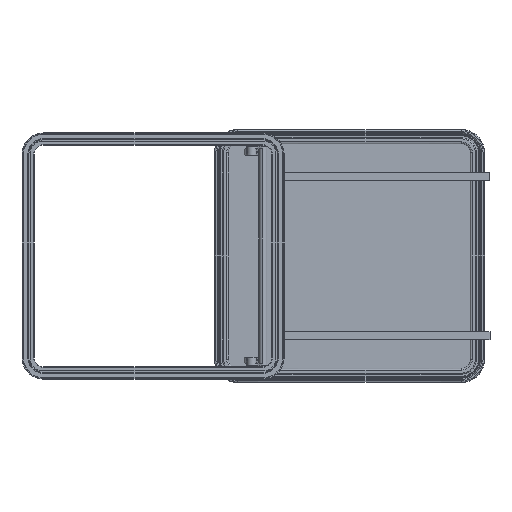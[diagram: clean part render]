
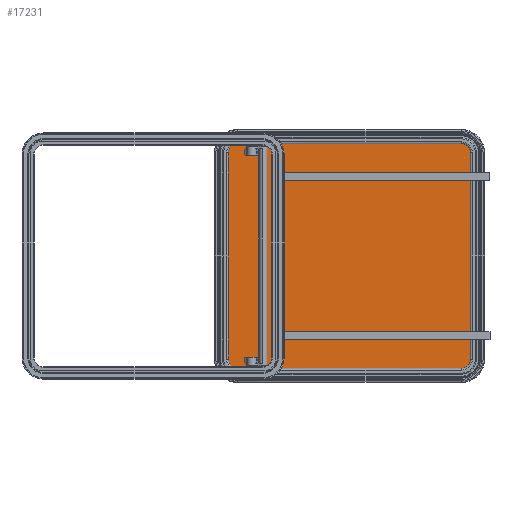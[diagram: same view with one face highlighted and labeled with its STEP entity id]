
A CAD part, front view. The second image highlights one B-rep face of the part: STEP entity #17231.
In plain terms, the highlighted planar face has unit normal (0, -1, 0).
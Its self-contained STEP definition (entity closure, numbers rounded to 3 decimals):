
#14776=DIRECTION('',(0.,0.,1.));
#14777=VECTOR('',#14776,698.);
#14778=CARTESIAN_POINT('',(-376.,0.,-349.));
#14779=LINE('',#14778,#14777);
#14780=CARTESIAN_POINT('',(-322.,0.,349.));
#14781=DIRECTION('',(0.,1.,0.));
#14782=DIRECTION('',(-1.,0.,0.));
#14783=AXIS2_PLACEMENT_3D('',#14780,#14781,#14782);
#14785=DIRECTION('',(1.,0.,0.));
#14786=VECTOR('',#14785,644.);
#14787=CARTESIAN_POINT('',(-322.,0.,403.));
#14788=LINE('',#14787,#14786);
#14789=CARTESIAN_POINT('',(322.,0.,349.));
#14790=DIRECTION('',(0.,1.,0.));
#14791=DIRECTION('',(0.,0.,1.));
#14792=AXIS2_PLACEMENT_3D('',#14789,#14790,#14791);
#14794=DIRECTION('',(0.,0.,-1.));
#14795=VECTOR('',#14794,698.);
#14796=CARTESIAN_POINT('',(376.,0.,349.));
#14797=LINE('',#14796,#14795);
#14798=CARTESIAN_POINT('',(322.,0.,-349.));
#14799=DIRECTION('',(0.,1.,0.));
#14800=DIRECTION('',(1.,0.,0.));
#14801=AXIS2_PLACEMENT_3D('',#14798,#14799,#14800);
#14803=DIRECTION('',(-1.,0.,0.));
#14804=VECTOR('',#14803,644.);
#14805=CARTESIAN_POINT('',(322.,0.,-403.));
#14806=LINE('',#14805,#14804);
#14807=CARTESIAN_POINT('',(-322.,0.,-349.));
#14808=DIRECTION('',(0.,1.,0.));
#14809=DIRECTION('',(0.,0.,-1.));
#14810=AXIS2_PLACEMENT_3D('',#14807,#14808,#14809);
#14812=CARTESIAN_POINT('',(-325.,0.,291.));
#14813=DIRECTION('',(0.,1.,0.));
#14814=DIRECTION('',(1.,0.,0.));
#14815=AXIS2_PLACEMENT_3D('',#14812,#14813,#14814);
#14817=DIRECTION('',(0.,0.,-1.));
#14818=VECTOR('',#14817,29.);
#14819=CARTESIAN_POINT('',(-319.5,0.,320.));
#14820=LINE('',#14819,#14818);
#14821=CARTESIAN_POINT('',(-325.,0.,320.));
#14822=DIRECTION('',(0.,1.,0.));
#14823=DIRECTION('',(-1.,0.,0.));
#14824=AXIS2_PLACEMENT_3D('',#14821,#14822,#14823);
#14826=DIRECTION('',(0.,0.,1.));
#14827=VECTOR('',#14826,29.);
#14828=CARTESIAN_POINT('',(-330.5,0.,291.));
#14829=LINE('',#14828,#14827);
#14830=CARTESIAN_POINT('',(325.,0.,291.));
#14831=DIRECTION('',(0.,-1.,0.));
#14832=DIRECTION('',(-1.,0.,0.));
#14833=AXIS2_PLACEMENT_3D('',#14830,#14831,#14832);
#14835=DIRECTION('',(0.,0.,1.));
#14836=VECTOR('',#14835,29.);
#14837=CARTESIAN_POINT('',(330.5,0.,291.));
#14838=LINE('',#14837,#14836);
#14839=CARTESIAN_POINT('',(325.,0.,320.));
#14840=DIRECTION('',(0.,-1.,0.));
#14841=DIRECTION('',(1.,0.,0.));
#14842=AXIS2_PLACEMENT_3D('',#14839,#14840,#14841);
#14844=DIRECTION('',(0.,0.,-1.));
#14845=VECTOR('',#14844,29.);
#14846=CARTESIAN_POINT('',(319.5,0.,320.));
#14847=LINE('',#14846,#14845);
#16604=CARTESIAN_POINT('',(-376.,0.,-349.));
#16605=CARTESIAN_POINT('',(-376.,0.,349.));
#16606=VERTEX_POINT('',#16604);
#16607=VERTEX_POINT('',#16605);
#16608=CARTESIAN_POINT('',(-322.,0.,403.));
#16609=VERTEX_POINT('',#16608);
#16610=CARTESIAN_POINT('',(322.,0.,403.));
#16611=VERTEX_POINT('',#16610);
#16612=CARTESIAN_POINT('',(376.,0.,349.));
#16613=VERTEX_POINT('',#16612);
#16614=CARTESIAN_POINT('',(376.,0.,-349.));
#16615=VERTEX_POINT('',#16614);
#16616=CARTESIAN_POINT('',(322.,0.,-403.));
#16617=VERTEX_POINT('',#16616);
#16618=CARTESIAN_POINT('',(-322.,0.,-403.));
#16619=VERTEX_POINT('',#16618);
#16668=CARTESIAN_POINT('',(-319.5,0.,291.));
#16669=CARTESIAN_POINT('',(-330.5,0.,291.));
#16670=VERTEX_POINT('',#16668);
#16671=VERTEX_POINT('',#16669);
#16672=CARTESIAN_POINT('',(-330.5,0.,320.));
#16673=VERTEX_POINT('',#16672);
#16674=CARTESIAN_POINT('',(-319.5,0.,320.));
#16675=VERTEX_POINT('',#16674);
#16684=CARTESIAN_POINT('',(319.5,0.,291.));
#16685=CARTESIAN_POINT('',(330.5,0.,291.));
#16686=VERTEX_POINT('',#16684);
#16687=VERTEX_POINT('',#16685);
#16688=CARTESIAN_POINT('',(330.5,0.,320.));
#16689=VERTEX_POINT('',#16688);
#16690=CARTESIAN_POINT('',(319.5,0.,320.));
#16691=VERTEX_POINT('',#16690);
#17188=CARTESIAN_POINT('',(0.,0.,0.));
#17189=DIRECTION('',(0.,1.,0.));
#17190=DIRECTION('',(1.,0.,0.));
#17191=AXIS2_PLACEMENT_3D('',#17188,#17189,#17190);
#17192=PLANE('',#17191);
#17194=ORIENTED_EDGE('',*,*,#17193,.T.);
#17196=ORIENTED_EDGE('',*,*,#17195,.T.);
#17198=ORIENTED_EDGE('',*,*,#17197,.T.);
#17200=ORIENTED_EDGE('',*,*,#17199,.T.);
#17202=ORIENTED_EDGE('',*,*,#17201,.T.);
#17204=ORIENTED_EDGE('',*,*,#17203,.T.);
#17206=ORIENTED_EDGE('',*,*,#17205,.T.);
#17208=ORIENTED_EDGE('',*,*,#17207,.T.);
#17209=EDGE_LOOP('',(#17194,#17196,#17198,#17200,#17202,#17204,#17206,#17208));
#17210=FACE_OUTER_BOUND('',#17209,.F.);
#17212=ORIENTED_EDGE('',*,*,#17211,.F.);
#17214=ORIENTED_EDGE('',*,*,#17213,.F.);
#17216=ORIENTED_EDGE('',*,*,#17215,.F.);
#17218=ORIENTED_EDGE('',*,*,#17217,.F.);
#17219=EDGE_LOOP('',(#17212,#17214,#17216,#17218));
#17220=FACE_BOUND('',#17219,.F.);
#17222=ORIENTED_EDGE('',*,*,#17221,.T.);
#17224=ORIENTED_EDGE('',*,*,#17223,.T.);
#17226=ORIENTED_EDGE('',*,*,#17225,.T.);
#17228=ORIENTED_EDGE('',*,*,#17227,.T.);
#17229=EDGE_LOOP('',(#17222,#17224,#17226,#17228));
#17230=FACE_BOUND('',#17229,.F.);
#17231=ADVANCED_FACE('',(#17210,#17220,#17230),#17192,.F.);
#14784=CIRCLE('',#14783,54.);
#14793=CIRCLE('',#14792,54.);
#14802=CIRCLE('',#14801,54.);
#14811=CIRCLE('',#14810,54.);
#14816=CIRCLE('',#14815,5.5);
#14825=CIRCLE('',#14824,5.5);
#14834=CIRCLE('',#14833,5.5);
#14843=CIRCLE('',#14842,5.5);
#17193=EDGE_CURVE('',#16606,#16607,#14779,.T.);
#17195=EDGE_CURVE('',#16607,#16609,#14784,.T.);
#17197=EDGE_CURVE('',#16609,#16611,#14788,.T.);
#17199=EDGE_CURVE('',#16611,#16613,#14793,.T.);
#17201=EDGE_CURVE('',#16613,#16615,#14797,.T.);
#17203=EDGE_CURVE('',#16615,#16617,#14802,.T.);
#17205=EDGE_CURVE('',#16617,#16619,#14806,.T.);
#17207=EDGE_CURVE('',#16619,#16606,#14811,.T.);
#17211=EDGE_CURVE('',#16670,#16671,#14816,.T.);
#17213=EDGE_CURVE('',#16675,#16670,#14820,.T.);
#17215=EDGE_CURVE('',#16673,#16675,#14825,.T.);
#17217=EDGE_CURVE('',#16671,#16673,#14829,.T.);
#17221=EDGE_CURVE('',#16686,#16687,#14834,.T.);
#17223=EDGE_CURVE('',#16687,#16689,#14838,.T.);
#17225=EDGE_CURVE('',#16689,#16691,#14843,.T.);
#17227=EDGE_CURVE('',#16691,#16686,#14847,.T.);
